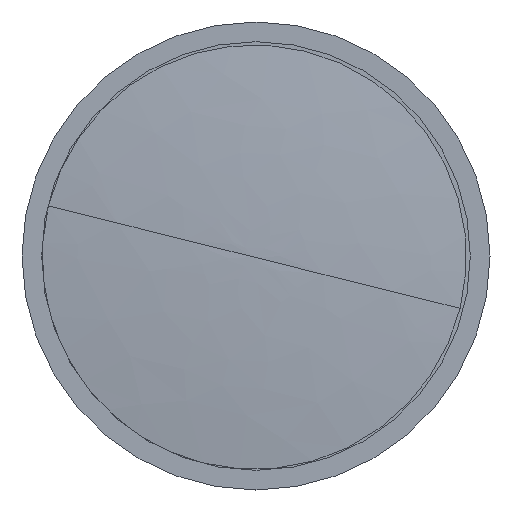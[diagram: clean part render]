
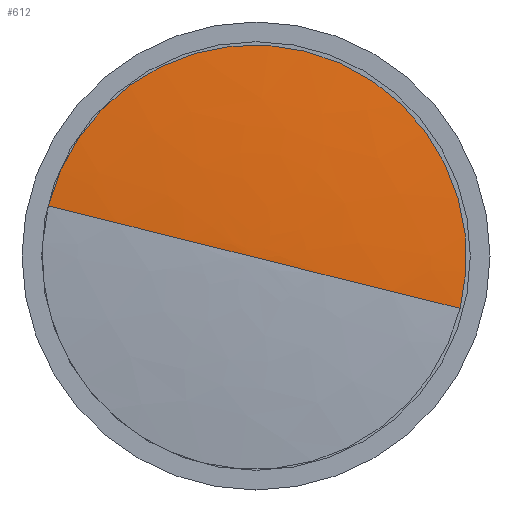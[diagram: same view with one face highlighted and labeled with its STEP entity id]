
A CAD part, left-side view. The second image highlights one B-rep face of the part: STEP entity #612.
In plain terms, the highlighted free-form (B-spline) face has degree [2, 2] with [3, 5] control points.
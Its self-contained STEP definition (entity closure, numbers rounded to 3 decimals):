
#612=ADVANCED_FACE('',(#1394),#1395,.T.);
#1394=FACE_OUTER_BOUND('',#2460,.T.);
#1395=(B_SPLINE_SURFACE(2,2,((#2462,#2463,#2464,#2465,#2466),(#2467,#2468,#2469,#2470,#2471),(#2472,#2473,#2474,#2475,#2476)),.UNSPECIFIED.,.F.,.F.,.F.)B_SPLINE_SURFACE_WITH_KNOTS((3,3),(3,2,3),(0.0,0.035),(0.0,0.25,0.5),.UNSPECIFIED.)RATIONAL_B_SPLINE_SURFACE(((1.0,0.707,1.0,0.707,1.0),(0.986,0.697,0.986,0.697,0.986),(0.975,0.689,0.975,0.689,0.975)))BOUNDED_SURFACE()REPRESENTATION_ITEM('')GEOMETRIC_REPRESENTATION_ITEM()SURFACE());
#2460=EDGE_LOOP('',(#4140,#4141,#4142));
#2462=CARTESIAN_POINT('',(0.,0.,-10.));
#2463=CARTESIAN_POINT('',(0.,0.,-10.));
#2464=CARTESIAN_POINT('',(0.,0.,-10.));
#2465=CARTESIAN_POINT('',(0.,0.,-10.));
#2466=CARTESIAN_POINT('',(0.,0.,-10.));
#2467=CARTESIAN_POINT('',(37.733,0.,-10.028));
#2468=CARTESIAN_POINT('',(37.733,-37.733,-10.028));
#2469=CARTESIAN_POINT('',(0.,-37.733,-10.028));
#2470=CARTESIAN_POINT('',(-37.733,-37.733,-10.028));
#2471=CARTESIAN_POINT('',(-37.733,0.,-10.028));
#2472=CARTESIAN_POINT('',(75.25,0.,-6.));
#2473=CARTESIAN_POINT('',(75.25,-75.25,-6.));
#2474=CARTESIAN_POINT('',(0.,-75.25,-6.));
#2475=CARTESIAN_POINT('',(-75.25,-75.25,-6.));
#2476=CARTESIAN_POINT('',(-75.25,0.,-6.));
#4140=ORIENTED_EDGE('',*,*,#6880,.F.);
#4141=ORIENTED_EDGE('',*,*,#6888,.F.);
#4142=ORIENTED_EDGE('',*,*,#6881,.F.);
#6880=EDGE_CURVE('',#8333,#8334,#8335,.T.);
#6881=EDGE_CURVE('',#8334,#8336,#8337,.T.);
#6888=EDGE_CURVE('',#8336,#8333,#8344,.T.);
#8333=VERTEX_POINT('',#10919);
#8334=VERTEX_POINT('',#10920);
#8335=CIRCLE('',#10921,700.);
#8336=VERTEX_POINT('',#10922);
#8337=CIRCLE('',#10923,700.);
#8344=CIRCLE('',#10932,75.25);
#10919=CARTESIAN_POINT('',(75.25,0.,-6.));
#10920=CARTESIAN_POINT('',(0.,0.,-10.));
#10921=AXIS2_PLACEMENT_3D('',#15473,#15474,#15475);
#10922=CARTESIAN_POINT('',(-75.25,0.,-6.));
#10923=AXIS2_PLACEMENT_3D('',#15476,#15477,#15478);
#10932=AXIS2_PLACEMENT_3D('',#15487,#15488,#15489);
#15473=CARTESIAN_POINT('',(0.522,0.0,690.));
#15474=DIRECTION('',(0.0,1.0,0.0));
#15475=DIRECTION('',(0.107,0.0,-0.994));
#15476=CARTESIAN_POINT('',(-0.522,0.0,690.));
#15477=DIRECTION('',(0.0,1.0,0.0));
#15478=DIRECTION('',(0.001,0.0,-1.));
#15487=CARTESIAN_POINT('',(0.,0.,-6.));
#15488=DIRECTION('',(0.,0.,1.0));
#15489=DIRECTION('',(-1.0,0.,0.));
